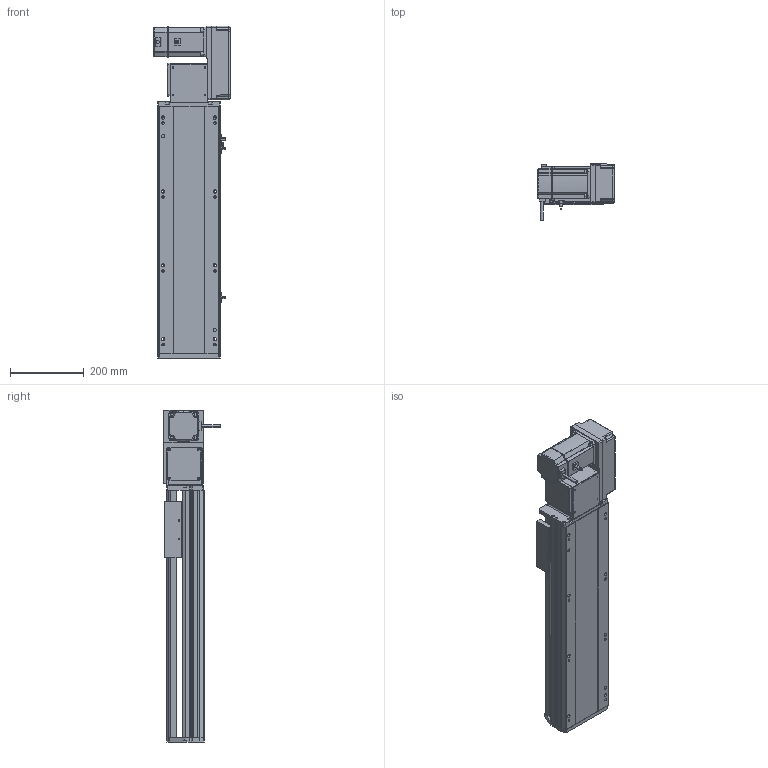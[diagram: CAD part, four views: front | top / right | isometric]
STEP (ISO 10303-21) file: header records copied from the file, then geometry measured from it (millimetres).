
FILE_DESCRIPTION (( 'STEP AP214' ), '1' );
FILE_NAME ('RTB17S-XX-400-R-M75-C4.STEP', '2025-12-12T01:30:16', ( '' ), ( '' ), 'SwSTEP 2.0', 'SolidWorks 2018', '' );
FILE_SCHEMA (( 'AUTOMOTIVE_DESIGN' ));
Length unit declared in the file: millimetre
Products named in the file (15): RTB22S-GY-017P^RTB17S-R-々湍釱蚾饜-750W_RTB17S-XX-XX-R-M75-C4; RTB17S-XX-400-R-M75-C4; RTB22S-GY-008-M75--萇儂啣^RTB17S-R-々湍釱蚾饜-750W_RTB17S-XX-XX-R-M75-C4; RTB17-R-011菁釱^RTB17S-XX-XX-R-M75-C4; RTB17S-L-004-賑釱^RTB17S-賑釱_RTB17S-XX-XX-R-M75-C4; EE672^RTB17S-XX-XX-R-M75-C4; RTB22S-GY-018P^RTB17S-R-々湍釱蚾饜-750W_RTB17S-XX-XX-R-M75-C4; RTB17S-L-014-T20-P75--々湍釱^RTB17S-R-々湍釱蚾饜-750W_RTB17S-XX-XX-R-M75-C4; RTB17S-L-007奻裔^RTB17S-XX-XX-R-M75-C4; RTB17S-賑釱^RTB17S-XX-XX-R-M75-C4; 750W萇儂^RTB17S-XX-XX-R-M75-C4; RTB22S-GY-005P^RTB17S-R-々湍釱蚾饜-750W_RTB17S-XX-XX-R-M75-C4; RTH13-BL-012覜茼え俋离^RTB17S-賑釱_RTB17S-XX-XX-R-M75-C4; RTB17S-R-々湍釱蚾饜-750W^RTB17S-XX-XX-R-M75-C4; RTB17S-L-001-耜醱啣^RTB17S-XX-XX-R-M75-C4
Assembly tree (17 placements, depth 3):
  RTB17S-XX-400-R-M75-C4
    RTB17-R-011菁釱^RTB17S-XX-XX-R-M75-C4
    EE672^RTB17S-XX-XX-R-M75-C4  x3
    RTB17S-L-001-耜醱啣^RTB17S-XX-XX-R-M75-C4
    RTB17S-賑釱^RTB17S-XX-XX-R-M75-C4
      RTB17S-L-004-賑釱^RTB17S-賑釱_RTB17S-XX-XX-R-M75-C4
      RTH13-BL-012覜茼え俋离^RTB17S-賑釱_RTB17S-XX-XX-R-M75-C4
    RTB17S-L-007奻裔^RTB17S-XX-XX-R-M75-C4
    750W萇儂^RTB17S-XX-XX-R-M75-C4
    RTB17S-R-々湍釱蚾饜-750W^RTB17S-XX-XX-R-M75-C4
      RTB17S-L-014-T20-P75--々湍釱^RTB17S-R-々湍釱蚾饜-750W_RTB17S-XX-XX-R-M75-C4
      RTB22S-GY-005P^RTB17S-R-々湍釱蚾饜-750W_RTB17S-XX-XX-R-M75-C4
      RTB22S-GY-017P^RTB17S-R-々湍釱蚾饜-750W_RTB17S-XX-XX-R-M75-C4  x2
      RTB22S-GY-008-M75--萇儂啣^RTB17S-R-々湍釱蚾饜-750W_RTB17S-XX-XX-R-M75-C4
      RTB22S-GY-018P^RTB17S-R-々湍釱蚾饜-750W_RTB17S-XX-XX-R-M75-C4
Bounding box: 207.4 x 152.7 x 899 mm (x, y, z)
Volume: 8453064.9 mm3; surface area: 1333022.2 mm2
Topology: 17 solids, 17 shells, 2041 faces, 5620 edges, 3626 vertices
Faces by surface type: plane 964, cylinder 661, bspline 294, cone 110, sphere 8, torus 4
Entity records: 55798 total; most frequent: CARTESIAN_POINT 16284, ORIENTED_EDGE 8084, DIRECTION 7592, EDGE_CURVE 4042, AXIS2_PLACEMENT_3D 2646, VERTEX_POINT 2630, LINE 2300, VECTOR 2300
